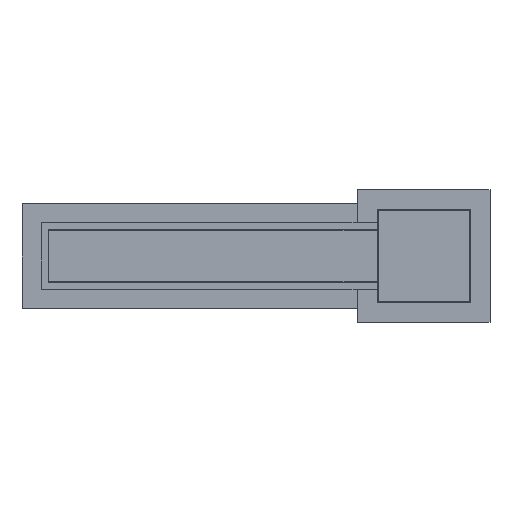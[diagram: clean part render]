
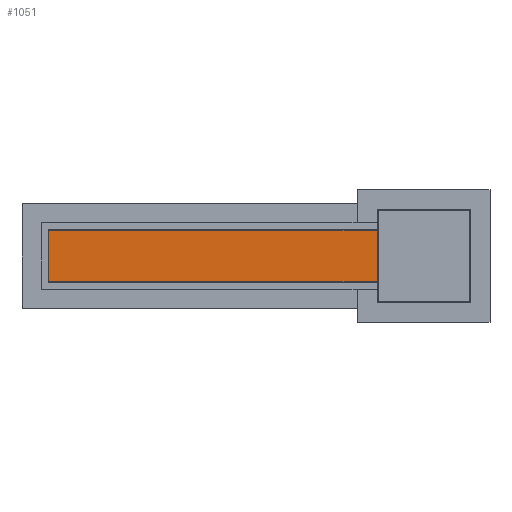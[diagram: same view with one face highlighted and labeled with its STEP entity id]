
A CAD part, top view. The second image highlights one B-rep face of the part: STEP entity #1051.
In plain terms, the highlighted planar face has unit normal (0, 0, 1).
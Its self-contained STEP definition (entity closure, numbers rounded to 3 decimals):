
#63=FACE_OUTER_BOUND('',#128,.T.);
#128=EDGE_LOOP('',(#770,#771,#772,#773));
#204=LINE('',#1544,#341);
#208=LINE('',#1552,#345);
#211=LINE('',#1558,#348);
#214=LINE('',#1563,#351);
#341=VECTOR('',#1266,304.8);
#345=VECTOR('',#1272,304.8);
#348=VECTOR('',#1277,304.8);
#351=VECTOR('',#1282,304.8);
#471=VERTEX_POINT('',#1542);
#472=VERTEX_POINT('',#1543);
#475=VERTEX_POINT('',#1551);
#477=VERTEX_POINT('',#1557);
#576=EDGE_CURVE('',#471,#472,#204,.T.);
#580=EDGE_CURVE('',#475,#471,#208,.T.);
#583=EDGE_CURVE('',#477,#475,#211,.T.);
#586=EDGE_CURVE('',#472,#477,#214,.T.);
#770=ORIENTED_EDGE('',*,*,#586,.T.);
#771=ORIENTED_EDGE('',*,*,#583,.T.);
#772=ORIENTED_EDGE('',*,*,#580,.T.);
#773=ORIENTED_EDGE('',*,*,#576,.T.);
#986=PLANE('',#1148);
#1051=ADVANCED_FACE('',(#63),#986,.T.);
#1148=AXIS2_PLACEMENT_3D('',#1566,#1286,#1287);
#1266=DIRECTION('',(0.,1.,0.));
#1272=DIRECTION('',(1.,0.,0.));
#1277=DIRECTION('',(0.,-1.,0.));
#1282=DIRECTION('',(-1.,0.,0.));
#1286=DIRECTION('center_axis',(0.,0.,1.));
#1287=DIRECTION('ref_axis',(-1.,0.,0.));
#1542=CARTESIAN_POINT('',(-122.5,-67.5,0.));
#1543=CARTESIAN_POINT('',(-122.5,67.5,0.));
#1544=CARTESIAN_POINT('',(-122.5,-67.5,0.));
#1551=CARTESIAN_POINT('',(-981.,-67.5,0.));
#1552=CARTESIAN_POINT('',(-981.,-67.5,0.));
#1557=CARTESIAN_POINT('',(-981.,67.5,0.));
#1558=CARTESIAN_POINT('',(-981.,67.5,0.));
#1563=CARTESIAN_POINT('',(-122.5,67.5,0.));
#1566=CARTESIAN_POINT('Origin',(-981.,67.5,0.));
